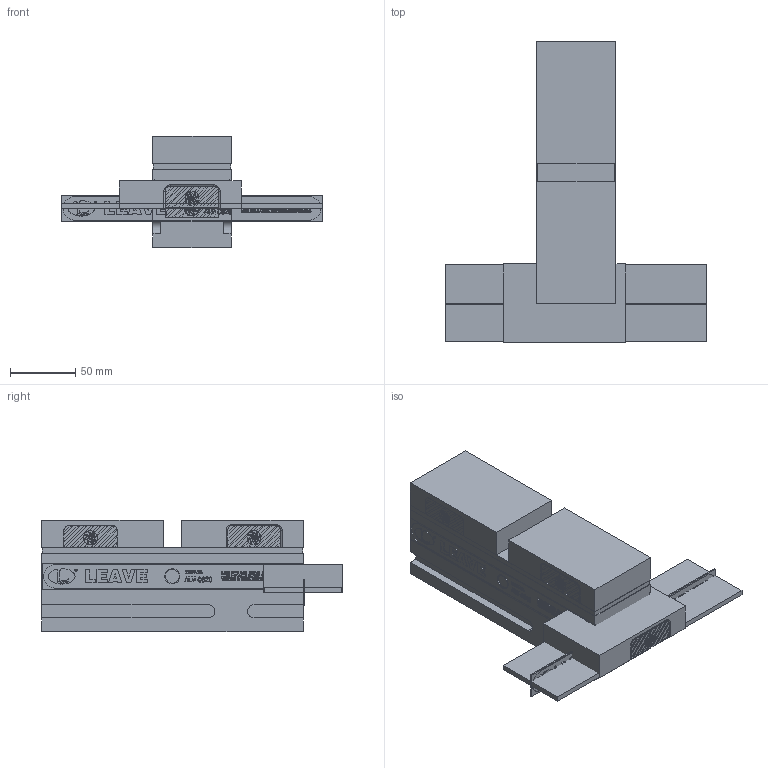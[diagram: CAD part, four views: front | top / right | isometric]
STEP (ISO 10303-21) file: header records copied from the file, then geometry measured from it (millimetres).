
FILE_DESCRIPTION( ( 'Unknown' ), '1' );
FILE_NAME( 'd:/暫存/ALV-3D/ALV-0620/ALV-0620-組合/ALV-0620-1.stp', 'Unknown', ( 'S.C.H' ), ( 'Unknown' ), 'XStep 1.0', 'Unknown', ' ' );
FILE_SCHEMA( ( 'CONFIG_CONTROL_DESIGN' ) );
Length unit declared in the file: millimetre
Products named in the file (8): Assem1; Assem2; Assem3; 1; 2; 3; 4; 5
Bounding box: 199 x 230 x 85 mm (x, y, z)
Volume: 2565544.6 mm3; surface area: 384267.7 mm2
Topology: 21 solids, 21 shells, 7306 faces, 19503 edges, 13007 vertices
Faces by surface type: plane 4534, extrusion 1440, cylinder 1324, torus 8
Full cylindrical faces by diameter (mm): 1.743 x5, 1.823 x5, 10.5 x5, 11.5 x5, 12 x12, 14 x3, 19 x12
Entity records: 48151 total; most frequent: CARTESIAN_POINT 13100, ORIENTED_EDGE 7512, DIRECTION 6255, EDGE_CURVE 3756, VECTOR 2965, LINE 2677, VERTEX_POINT 2516, AXIS2_PLACEMENT_3D 1645
